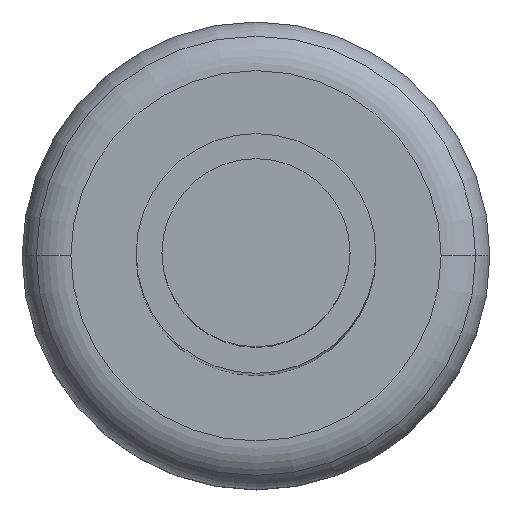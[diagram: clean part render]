
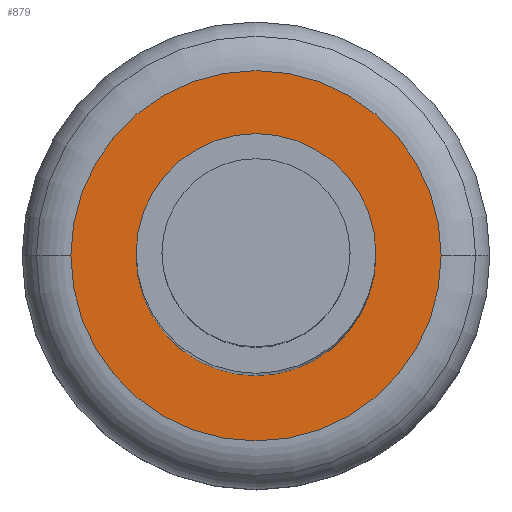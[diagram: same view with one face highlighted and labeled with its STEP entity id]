
A CAD part, top view. The second image highlights one B-rep face of the part: STEP entity #879.
In plain terms, the highlighted planar face has unit normal (0, 0, 1).
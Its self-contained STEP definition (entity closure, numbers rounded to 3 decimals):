
#400=CARTESIAN_POINT('',(-42.5,0.,2.45));
#401=DIRECTION('',(0.,0.,1.));
#402=DIRECTION('',(1.,0.,0.));
#403=AXIS2_PLACEMENT_3D('',#400,#401,#402);
#408=CARTESIAN_POINT('',(-42.5,0.,2.45));
#409=DIRECTION('',(0.,0.,1.));
#410=DIRECTION('',(-1.,0.,0.));
#411=AXIS2_PLACEMENT_3D('',#408,#409,#410);
#416=CARTESIAN_POINT('',(-42.5,0.,2.45));
#417=DIRECTION('',(0.,0.,-1.));
#418=DIRECTION('',(1.,0.,0.));
#419=AXIS2_PLACEMENT_3D('',#416,#417,#418);
#424=CARTESIAN_POINT('',(-42.5,0.,2.45));
#425=DIRECTION('',(0.,0.,-1.));
#426=DIRECTION('',(-1.,0.,0.));
#427=AXIS2_PLACEMENT_3D('',#424,#425,#426);
#748=CARTESIAN_POINT('',(-43.73,0.,2.45));
#749=CARTESIAN_POINT('',(-41.27,0.,2.45));
#750=VERTEX_POINT('',#748);
#751=VERTEX_POINT('',#749);
#764=CARTESIAN_POINT('',(-44.4,0.,2.45));
#765=VERTEX_POINT('',#764);
#766=CARTESIAN_POINT('',(-40.6,0.,2.45));
#767=VERTEX_POINT('',#766);
#864=CARTESIAN_POINT('',(-42.5,0.,2.45));
#865=DIRECTION('',(0.,0.,1.));
#866=DIRECTION('',(1.,0.,0.));
#867=AXIS2_PLACEMENT_3D('',#864,#865,#866);
#868=PLANE('',#867);
#870=ORIENTED_EDGE('',*,*,#869,.F.);
#872=ORIENTED_EDGE('',*,*,#871,.F.);
#873=EDGE_LOOP('',(#870,#872));
#874=FACE_OUTER_BOUND('',#873,.F.);
#875=ORIENTED_EDGE('',*,*,#858,.F.);
#876=ORIENTED_EDGE('',*,*,#789,.F.);
#877=EDGE_LOOP('',(#875,#876));
#878=FACE_BOUND('',#877,.F.);
#879=ADVANCED_FACE('',(#874,#878),#868,.T.);
#404=CIRCLE('',#403,1.9);
#412=CIRCLE('',#411,1.9);
#420=CIRCLE('',#419,1.23);
#428=CIRCLE('',#427,1.23);
#789=EDGE_CURVE('',#750,#751,#428,.T.);
#858=EDGE_CURVE('',#751,#750,#420,.T.);
#869=EDGE_CURVE('',#767,#765,#404,.T.);
#871=EDGE_CURVE('',#765,#767,#412,.T.);
